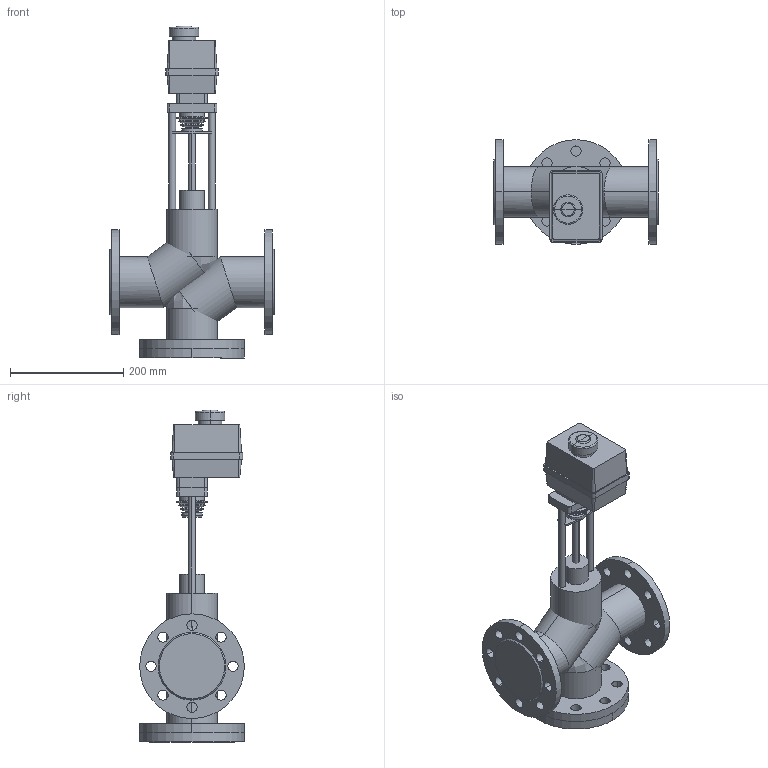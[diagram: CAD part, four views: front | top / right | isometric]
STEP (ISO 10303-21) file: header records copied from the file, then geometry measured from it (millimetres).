
FILE_DESCRIPTION(/* description */ (''),/* implementation_level */ '2;1');
FILE_NAME(/* name */ 'ТРК DN65 PN 1.6 МПа Regada ST0',/* time_stamp */ '2026-07-14T23:18:40+03:00',/* author */ (''),/* organization */ (''),/* preprocessor_version */ 'ST-DEVELOPER v20',/* originating_system */ '',/* authorisation */ '');
FILE_SCHEMA (('AP242_MANAGED_MODEL_BASED_3D_ENGINEERING_MIM_LF { 1 0 10303 442 1 1 4 }'));
Length unit declared in the file: millimetre
Products named in the file (14): TopLevelAssembly; Выдавливание; Модификатор; Модификатор_1; Выдавливание_
1; Выдавливание_
2; Вращение; Выдавливание_
3; Выдавливание_
4; Привод_Regada ST 0; Переход; Объемная геометрия 
присоединена; Полый Выдавливание; Объемная геометрия 
присоединена_1
Assembly tree (13 placements, depth 2):
  TopLevelAssembly
    Выдавливание
    Модификатор
    Модификатор_1
    Выдавливание_
1
    Выдавливание_
2
    Вращение
    Выдавливание_
3
    Выдавливание_
4
    Привод_Regada ST 0
    Переход
    Объемная геометрия 
присоединена
    Полый Выдавливание
    Объемная геометрия 
присоединена_1
Bounding box: 290 x 185 x 586.99 mm (x, y, z)
Volume: 6184030.1 mm3; surface area: 676998 mm2
Topology: 24 solids, 24 shells, 234 faces, 512 edges, 320 vertices
Faces by surface type: cylinder 106, plane 88, bspline 28, cone 12
Entity records: 7370 total; most frequent: CARTESIAN_POINT 1517, DIRECTION 1246, ORIENTED_EDGE 1008, AXIS2_PLACEMENT_3D 509, EDGE_CURVE 504, VERTEX_POINT 320, EDGE_LOOP 288, CIRCLE 268
